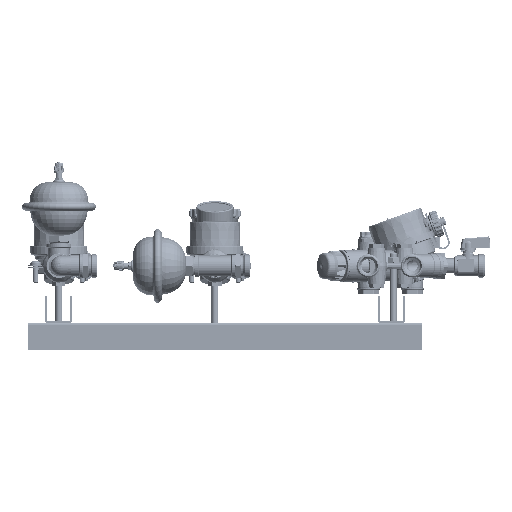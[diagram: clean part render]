
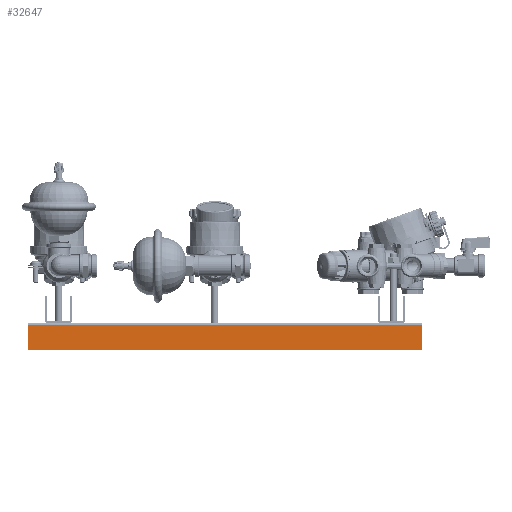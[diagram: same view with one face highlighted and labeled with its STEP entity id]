
A CAD part, front view. The second image highlights one B-rep face of the part: STEP entity #32647.
In plain terms, the highlighted planar face has unit normal (0, -1, 0) as drawn and (1, 0, 0) by its records, which use the part's own axes.
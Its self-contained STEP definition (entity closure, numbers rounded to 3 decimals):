
#32647=ADVANCED_FACE('',(#139680),#139682,.T.);
#139680=FACE_BOUND('',#139681,.T.);
#139681=EDGE_LOOP('',(#306093,#306094,#306095,#306096));
#139682=PLANE('',#139683);
#139683=AXIS2_PLACEMENT_3D('',#139684,#139685,#139686);
#139684=CARTESIAN_POINT('',(15.5,-450.,-2.5));
#139685=DIRECTION('',(1.,0.,0.));
#139686=DIRECTION('',(0.,0.,-1.));
#306093=ORIENTED_EDGE('',*,*,#379393,.T.);
#306094=ORIENTED_EDGE('',*,*,#379421,.T.);
#306095=ORIENTED_EDGE('',*,*,#379411,.F.);
#306096=ORIENTED_EDGE('',*,*,#379418,.F.);
#379393=EDGE_CURVE('',#439684,#439681,#439685,.T.);
#379411=EDGE_CURVE('',#439713,#439715,#439716,.T.);
#379418=EDGE_CURVE('',#439684,#439713,#439723,.T.);
#379421=EDGE_CURVE('',#439681,#439715,#439726,.T.);
#439681=VERTEX_POINT('',#668059);
#439684=VERTEX_POINT('',#668064);
#439685=LINE('',#668065,#668066);
#439713=VERTEX_POINT('',#668134);
#439715=VERTEX_POINT('',#668139);
#439716=LINE('',#668140,#668141);
#439723=LINE('',#668161,#668162);
#439726=LINE('',#668170,#668171);
#668059=CARTESIAN_POINT('',(15.5,-450.,-31.2));
#668064=CARTESIAN_POINT('',(15.5,-450.,-2.5));
#668065=CARTESIAN_POINT('',(15.5,-450.,-2.5));
#668066=VECTOR('',#668067,1.);
#668067=DIRECTION('',(0.,0.,-1.));
#668134=CARTESIAN_POINT('',(15.5,0.,-2.5));
#668139=CARTESIAN_POINT('',(15.5,0.,-31.2));
#668140=CARTESIAN_POINT('',(15.5,0.,-2.5));
#668141=VECTOR('',#668142,1.);
#668142=DIRECTION('',(0.,0.,-1.));
#668161=CARTESIAN_POINT('',(15.5,-450.,-2.5));
#668162=VECTOR('',#668163,1.);
#668163=DIRECTION('',(0.,1.,0.));
#668170=CARTESIAN_POINT('',(15.5,-450.,-31.2));
#668171=VECTOR('',#668172,1.);
#668172=DIRECTION('',(0.,1.,0.));
